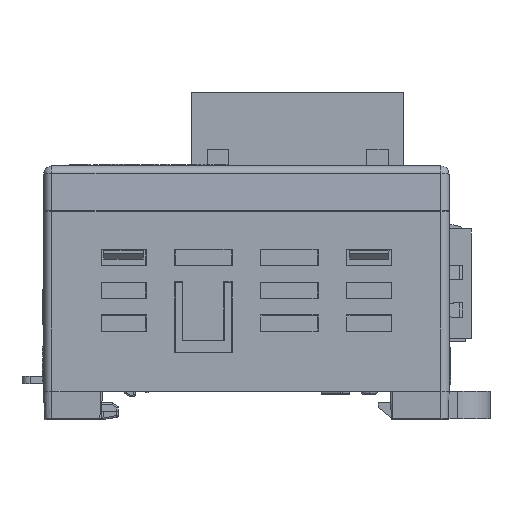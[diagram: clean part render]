
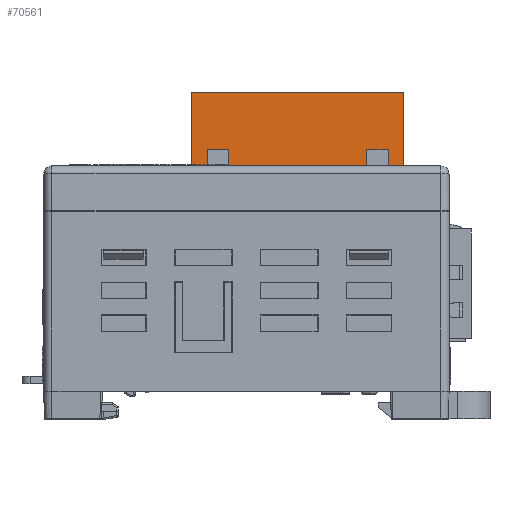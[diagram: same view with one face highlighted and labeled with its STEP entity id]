
A CAD part, left-side view. The second image highlights one B-rep face of the part: STEP entity #70561.
In plain terms, the highlighted planar face has unit normal (-1, 0, 0).
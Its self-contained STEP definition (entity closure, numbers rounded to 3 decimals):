
#2016=DIRECTION('',(0.,1.,0.));
#2017=VECTOR('',#2016,1.);
#2018=CARTESIAN_POINT('',(7.53,-19.21,27.5));
#2019=LINE('',#2018,#2017);
#2032=DIRECTION('',(0.,1.,0.));
#2033=VECTOR('',#2032,1.);
#2034=CARTESIAN_POINT('',(7.53,-13.26,27.5));
#2035=LINE('',#2034,#2033);
#2048=DIRECTION('',(0.,1.,0.));
#2049=VECTOR('',#2048,1.);
#2050=CARTESIAN_POINT('',(7.53,-6.76,27.5));
#2051=LINE('',#2050,#2049);
#2064=DIRECTION('',(0.,1.,0.));
#2065=VECTOR('',#2064,1.);
#2066=CARTESIAN_POINT('',(7.53,-0.26,27.5));
#2067=LINE('',#2066,#2065);
#2080=DIRECTION('',(0.,1.,0.));
#2081=VECTOR('',#2080,1.);
#2082=CARTESIAN_POINT('',(7.53,5.69,27.5));
#2083=LINE('',#2082,#2081);
#3060=DIRECTION('',(0.,-1.,0.));
#3061=VECTOR('',#3060,0.9);
#3062=CARTESIAN_POINT('',(7.53,-17.31,28.));
#3063=LINE('',#3062,#3061);
#3064=DIRECTION('',(0.,-1.,0.));
#3065=VECTOR('',#3064,2.6);
#3066=CARTESIAN_POINT('',(7.53,-14.71,33.));
#3067=LINE('',#3066,#3065);
#3068=DIRECTION('',(0.,0.,1.));
#3069=VECTOR('',#3068,5.);
#3070=CARTESIAN_POINT('',(7.53,-14.71,28.));
#3071=LINE('',#3070,#3069);
#3072=DIRECTION('',(0.,-1.,0.));
#3073=VECTOR('',#3072,1.45);
#3074=CARTESIAN_POINT('',(7.53,-13.26,28.));
#3075=LINE('',#3074,#3073);
#3076=DIRECTION('',(0.,-1.,0.));
#3077=VECTOR('',#3076,5.5);
#3078=CARTESIAN_POINT('',(7.53,-6.76,28.));
#3079=LINE('',#3078,#3077);
#3080=DIRECTION('',(0.,-1.,0.));
#3081=VECTOR('',#3080,5.5);
#3082=CARTESIAN_POINT('',(7.53,-0.26,28.));
#3083=LINE('',#3082,#3081);
#3084=DIRECTION('',(0.,-1.,0.));
#3085=VECTOR('',#3084,1.45);
#3086=CARTESIAN_POINT('',(7.53,2.19,28.));
#3087=LINE('',#3086,#3085);
#3088=DIRECTION('',(0.,-1.,0.));
#3089=VECTOR('',#3088,0.9);
#3090=CARTESIAN_POINT('',(7.53,5.69,28.));
#3091=LINE('',#3090,#3089);
#3100=DIRECTION('',(0.,0.,1.));
#3101=VECTOR('',#3100,0.5);
#3102=CARTESIAN_POINT('',(7.53,-18.21,27.5));
#3103=LINE('',#3102,#3101);
#3116=DIRECTION('',(0.,0.,-1.));
#3117=VECTOR('',#3116,12.5);
#3118=CARTESIAN_POINT('',(7.53,-19.21,40.));
#3119=LINE('',#3118,#3117);
#3248=DIRECTION('',(0.,0.,1.));
#3249=VECTOR('',#3248,12.5);
#3250=CARTESIAN_POINT('',(7.53,6.69,27.5));
#3251=LINE('',#3250,#3249);
#4998=DIRECTION('',(0.,0.,-1.));
#4999=VECTOR('',#4998,0.5);
#5000=CARTESIAN_POINT('',(7.53,5.69,28.));
#5001=LINE('',#5000,#4999);
#5266=DIRECTION('',(0.,0.,-1.));
#5267=VECTOR('',#5266,5.);
#5268=CARTESIAN_POINT('',(7.53,-17.31,33.));
#5269=LINE('',#5268,#5267);
#5602=DIRECTION('',(0.,0.,1.));
#5603=VECTOR('',#5602,5.);
#5604=CARTESIAN_POINT('',(7.53,4.79,28.));
#5605=LINE('',#5604,#5603);
#5622=DIRECTION('',(0.,-1.,0.));
#5623=VECTOR('',#5622,2.6);
#5624=CARTESIAN_POINT('',(7.53,4.79,33.));
#5625=LINE('',#5624,#5623);
#5630=DIRECTION('',(0.,0.,-1.));
#5631=VECTOR('',#5630,5.);
#5632=CARTESIAN_POINT('',(7.53,2.19,33.));
#5633=LINE('',#5632,#5631);
#42638=DIRECTION('',(0.,-1.,0.));
#42639=VECTOR('',#42638,25.9);
#42640=CARTESIAN_POINT('',(7.53,6.69,40.));
#42641=LINE('',#42640,#42639);
#42898=DIRECTION('',(0.,0.,-1.));
#42899=VECTOR('',#42898,0.5);
#42900=CARTESIAN_POINT('',(7.53,-13.26,28.));
#42901=LINE('',#42900,#42899);
#42922=DIRECTION('',(0.,0.,1.));
#42923=VECTOR('',#42922,0.5);
#42924=CARTESIAN_POINT('',(7.53,-12.26,27.5));
#42925=LINE('',#42924,#42923);
#42926=DIRECTION('',(0.,0.,-1.));
#42927=VECTOR('',#42926,0.5);
#42928=CARTESIAN_POINT('',(7.53,-6.76,28.));
#42929=LINE('',#42928,#42927);
#42950=DIRECTION('',(0.,0.,1.));
#42951=VECTOR('',#42950,0.5);
#42952=CARTESIAN_POINT('',(7.53,-5.76,27.5));
#42953=LINE('',#42952,#42951);
#42954=DIRECTION('',(0.,0.,-1.));
#42955=VECTOR('',#42954,0.5);
#42956=CARTESIAN_POINT('',(7.53,-0.26,28.));
#42957=LINE('',#42956,#42955);
#42978=DIRECTION('',(0.,0.,1.));
#42979=VECTOR('',#42978,0.5);
#42980=CARTESIAN_POINT('',(7.53,0.74,27.5));
#42981=LINE('',#42980,#42979);
#58953=CARTESIAN_POINT('',(7.53,-14.71,28.));
#58955=VERTEX_POINT('',#58953);
#58958=CARTESIAN_POINT('',(7.53,-17.31,28.));
#58959=VERTEX_POINT('',#58958);
#58960=CARTESIAN_POINT('',(7.53,-18.21,28.));
#58961=VERTEX_POINT('',#58960);
#59038=CARTESIAN_POINT('',(7.53,5.69,28.));
#59039=VERTEX_POINT('',#59038);
#59040=CARTESIAN_POINT('',(7.53,4.79,28.));
#59041=VERTEX_POINT('',#59040);
#59046=CARTESIAN_POINT('',(7.53,2.19,28.));
#59047=VERTEX_POINT('',#59046);
#59048=CARTESIAN_POINT('',(7.53,0.74,28.));
#59049=VERTEX_POINT('',#59048);
#59054=CARTESIAN_POINT('',(7.53,-0.26,28.));
#59055=VERTEX_POINT('',#59054);
#59056=CARTESIAN_POINT('',(7.53,-5.76,28.));
#59057=VERTEX_POINT('',#59056);
#59062=CARTESIAN_POINT('',(7.53,-6.76,28.));
#59063=VERTEX_POINT('',#59062);
#59064=CARTESIAN_POINT('',(7.53,-12.26,28.));
#59065=VERTEX_POINT('',#59064);
#59070=CARTESIAN_POINT('',(7.53,-13.26,28.));
#59071=VERTEX_POINT('',#59070);
#60074=CARTESIAN_POINT('',(7.53,-17.31,33.));
#60075=VERTEX_POINT('',#60074);
#60076=CARTESIAN_POINT('',(7.53,-14.71,33.));
#60077=VERTEX_POINT('',#60076);
#60078=CARTESIAN_POINT('',(7.53,2.19,33.));
#60079=VERTEX_POINT('',#60078);
#60080=CARTESIAN_POINT('',(7.53,4.79,33.));
#60081=VERTEX_POINT('',#60080);
#60082=CARTESIAN_POINT('',(7.53,6.69,40.));
#60083=CARTESIAN_POINT('',(7.53,-19.21,40.));
#60084=VERTEX_POINT('',#60082);
#60085=VERTEX_POINT('',#60083);
#66828=CARTESIAN_POINT('',(7.53,-19.21,27.5));
#66829=CARTESIAN_POINT('',(7.53,-18.21,27.5));
#66830=VERTEX_POINT('',#66828);
#66831=VERTEX_POINT('',#66829);
#66832=CARTESIAN_POINT('',(7.53,-13.26,27.5));
#66833=CARTESIAN_POINT('',(7.53,-12.26,27.5));
#66834=VERTEX_POINT('',#66832);
#66835=VERTEX_POINT('',#66833);
#66836=CARTESIAN_POINT('',(7.53,-6.76,27.5));
#66837=CARTESIAN_POINT('',(7.53,-5.76,27.5));
#66838=VERTEX_POINT('',#66836);
#66839=VERTEX_POINT('',#66837);
#66840=CARTESIAN_POINT('',(7.53,-0.26,27.5));
#66841=CARTESIAN_POINT('',(7.53,0.74,27.5));
#66842=VERTEX_POINT('',#66840);
#66843=VERTEX_POINT('',#66841);
#66844=CARTESIAN_POINT('',(7.53,5.69,27.5));
#66845=CARTESIAN_POINT('',(7.53,6.69,27.5));
#66846=VERTEX_POINT('',#66844);
#66847=VERTEX_POINT('',#66845);
#70510=CARTESIAN_POINT('',(7.53,-6.26,33.5));
#70511=DIRECTION('',(1.,0.,0.));
#70512=DIRECTION('',(0.,0.,-1.));
#70513=AXIS2_PLACEMENT_3D('',#70510,#70511,#70512);
#70514=PLANE('',#70513);
#70515=ORIENTED_EDGE('',*,*,#69398,.T.);
#70517=ORIENTED_EDGE('',*,*,#70516,.T.);
#70518=ORIENTED_EDGE('',*,*,#69835,.F.);
#70520=ORIENTED_EDGE('',*,*,#70519,.F.);
#70522=ORIENTED_EDGE('',*,*,#70521,.F.);
#70523=ORIENTED_EDGE('',*,*,#70492,.F.);
#70524=ORIENTED_EDGE('',*,*,#69947,.F.);
#70526=ORIENTED_EDGE('',*,*,#70525,.T.);
#70527=ORIENTED_EDGE('',*,*,#69408,.T.);
#70529=ORIENTED_EDGE('',*,*,#70528,.T.);
#70530=ORIENTED_EDGE('',*,*,#69939,.F.);
#70532=ORIENTED_EDGE('',*,*,#70531,.T.);
#70533=ORIENTED_EDGE('',*,*,#69418,.T.);
#70535=ORIENTED_EDGE('',*,*,#70534,.T.);
#70536=ORIENTED_EDGE('',*,*,#69931,.F.);
#70538=ORIENTED_EDGE('',*,*,#70537,.T.);
#70539=ORIENTED_EDGE('',*,*,#69428,.T.);
#70541=ORIENTED_EDGE('',*,*,#70540,.T.);
#70542=ORIENTED_EDGE('',*,*,#69923,.F.);
#70544=ORIENTED_EDGE('',*,*,#70543,.F.);
#70546=ORIENTED_EDGE('',*,*,#70545,.F.);
#70548=ORIENTED_EDGE('',*,*,#70547,.F.);
#70549=ORIENTED_EDGE('',*,*,#69915,.F.);
#70551=ORIENTED_EDGE('',*,*,#70550,.T.);
#70552=ORIENTED_EDGE('',*,*,#69438,.T.);
#70554=ORIENTED_EDGE('',*,*,#70553,.T.);
#70556=ORIENTED_EDGE('',*,*,#70555,.T.);
#70558=ORIENTED_EDGE('',*,*,#70557,.T.);
#70559=EDGE_LOOP('',(#70515,#70517,#70518,#70520,#70522,#70523,#70524,#70526,
#70527,#70529,#70530,#70532,#70533,#70535,#70536,#70538,#70539,#70541,#70542,
#70544,#70546,#70548,#70549,#70551,#70552,#70554,#70556,#70558));
#70560=FACE_OUTER_BOUND('',#70559,.F.);
#70561=ADVANCED_FACE('',(#70560),#70514,.F.);
#69398=EDGE_CURVE('',#66830,#66831,#2019,.T.);
#69408=EDGE_CURVE('',#66834,#66835,#2035,.T.);
#69418=EDGE_CURVE('',#66838,#66839,#2051,.T.);
#69428=EDGE_CURVE('',#66842,#66843,#2067,.T.);
#69438=EDGE_CURVE('',#66846,#66847,#2083,.T.);
#69835=EDGE_CURVE('',#58959,#58961,#3063,.T.);
#69915=EDGE_CURVE('',#59039,#59041,#3091,.T.);
#69923=EDGE_CURVE('',#59047,#59049,#3087,.T.);
#69931=EDGE_CURVE('',#59055,#59057,#3083,.T.);
#69939=EDGE_CURVE('',#59063,#59065,#3079,.T.);
#69947=EDGE_CURVE('',#59071,#58955,#3075,.T.);
#70492=EDGE_CURVE('',#58955,#60077,#3071,.T.);
#70516=EDGE_CURVE('',#66831,#58961,#3103,.T.);
#70519=EDGE_CURVE('',#60075,#58959,#5269,.T.);
#70521=EDGE_CURVE('',#60077,#60075,#3067,.T.);
#70525=EDGE_CURVE('',#59071,#66834,#42901,.T.);
#70528=EDGE_CURVE('',#66835,#59065,#42925,.T.);
#70531=EDGE_CURVE('',#59063,#66838,#42929,.T.);
#70534=EDGE_CURVE('',#66839,#59057,#42953,.T.);
#70537=EDGE_CURVE('',#59055,#66842,#42957,.T.);
#70540=EDGE_CURVE('',#66843,#59049,#42981,.T.);
#70543=EDGE_CURVE('',#60079,#59047,#5633,.T.);
#70545=EDGE_CURVE('',#60081,#60079,#5625,.T.);
#70547=EDGE_CURVE('',#59041,#60081,#5605,.T.);
#70550=EDGE_CURVE('',#59039,#66846,#5001,.T.);
#70553=EDGE_CURVE('',#66847,#60084,#3251,.T.);
#70555=EDGE_CURVE('',#60084,#60085,#42641,.T.);
#70557=EDGE_CURVE('',#60085,#66830,#3119,.T.);
